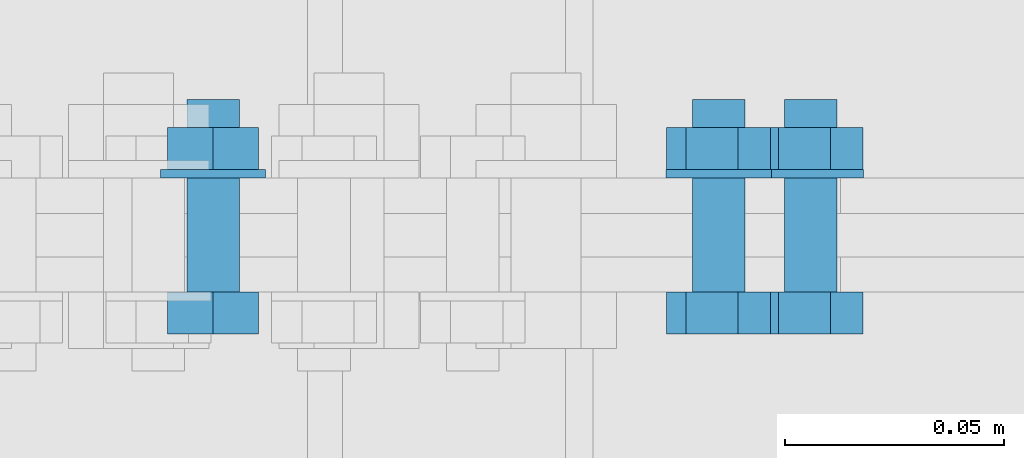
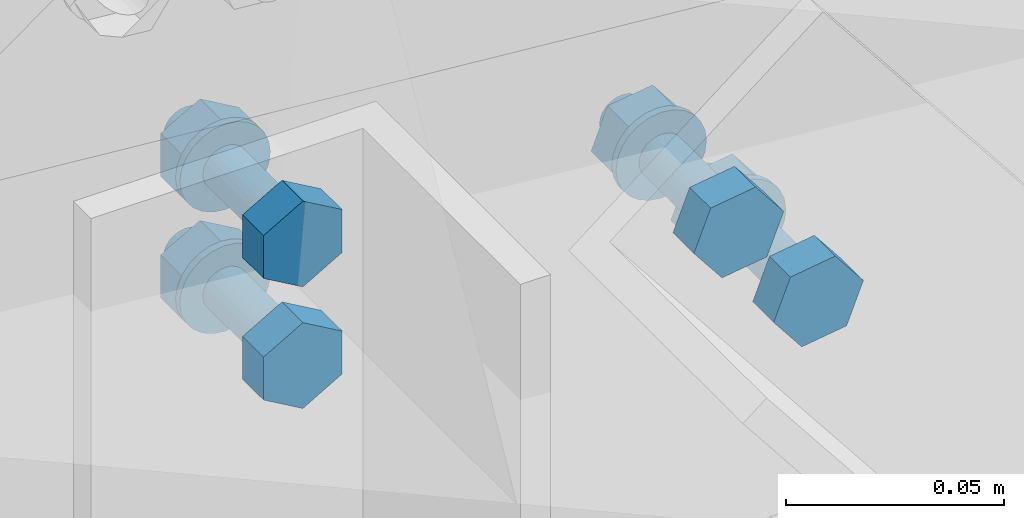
# One storey, part 106 of 251: 16 mechanical fasteners.
"""IFC4 building model written with IfcOpenShell, lengths in metres."""

import ifcopenshell
import ifcopenshell.guid

model = None  # the IFC model being written
_history = None  # IfcOwnerHistory: only IFC2X3 demands one
_inside = {}  # id of a spatial element -> (the spatial element, [elements in it])
_under = {}  # id of a project, library or spatial element -> (it, [spatial elements below it])
_declared = {}  # id of a project -> (the project, [libraries it declares])
_typed = {}  # id of a type object -> (the type object, [elements of that type])
_made_of = {}  # id of a material, layer set ... -> (it, [elements and type objects made of it])


def new_model(schema):
    """Start an empty IFC model of exactly this schema.

    Asked for "IFC4X3", IfcOpenShell would pick the latest addendum, in which some entities
    have other attributes; the version numbers below select the first issue.
    IFC2X3 requires an IfcOwnerHistory on every rooted entity: one is made here for all.
    """
    global model, _history
    if schema == "IFC4X3":
        model = ifcopenshell.file(schema_version=(4, 3, 0, 0))
    else:
        model = ifcopenshell.file(schema=schema)
    _inside.clear()
    _under.clear()
    _declared.clear()
    _typed.clear()
    _made_of.clear()
    _history = None
    if model.schema == "IFC2X3":
        org = make("IfcOrganization", Name="unknown")
        user = make(
            "IfcPersonAndOrganization",
            ThePerson=make("IfcPerson", FamilyName="unknown"),
            TheOrganization=org,
        )
        app = make(
            "IfcApplication",
            ApplicationDeveloper=org,
            Version="unknown",
            ApplicationFullName="unknown",
            ApplicationIdentifier="unknown",
        )
        _history = make(
            "IfcOwnerHistory",
            OwningUser=user,
            OwningApplication=app,
            ChangeAction="ADDED",
            CreationDate=0,
        )
    return model


def make(cls, **values):
    """One entity of the class cls with the attributes given. An attribute that is None is left unset."""
    return model.create_entity(
        cls, **{name: value for name, value in values.items() if value is not None}
    )


def rooted(cls, **values):
    """An entity with a GlobalId (a new one), such as an element, a storey or a relation."""
    return make(cls, GlobalId=ifcopenshell.guid.new(), OwnerHistory=_history, **values)


def si_unit(unit_type, name, prefix=None):
    """IfcSIUnit, for example si_unit("LENGTHUNIT", "METRE", prefix="MILLI")."""
    return make("IfcSIUnit", UnitType=unit_type, Prefix=prefix, Name=name)


def assignment(units):
    """IfcUnitAssignment: the units of a project."""
    return None if units is None else make("IfcUnitAssignment", Units=units)


def point(xyz):
    """IfcCartesianPoint."""
    return None if xyz is None else make("IfcCartesianPoint", Coordinates=xyz)


def direction(xyz):
    """IfcDirection."""
    return None if xyz is None else make("IfcDirection", DirectionRatios=xyz)


def frame(location, z_axis=None, x_axis=None):
    """IfcAxis2Placement3D, a coordinate frame: its origin and axes. An axis left out is left unset."""
    return make(
        "IfcAxis2Placement3D",
        Location=point(location),
        Axis=direction(z_axis),
        RefDirection=direction(x_axis),
    )


def origin_with_axes():
    """The frame at (0, 0, 0) with the z axis (0, 0, 1) and the x axis (1, 0, 0) written out."""
    return frame((0.0, 0.0, 0.0), z_axis=(0.0, 0.0, 1.0), x_axis=(1.0, 0.0, 0.0))


def place(relative_to, where):
    """IfcLocalPlacement: puts the frame where relative to a parent placement (None: the world)."""
    return make(
        "IfcLocalPlacement", PlacementRelTo=relative_to, RelativePlacement=where
    )


def context(
    kind, dimensions, precision=None, world=None, true_north=None, identifier=None
):
    """IfcGeometricRepresentationContext, for example the 3D "Model" context."""
    return make(
        "IfcGeometricRepresentationContext",
        ContextIdentifier=identifier,
        ContextType=kind,
        CoordinateSpaceDimension=dimensions,
        Precision=precision,
        WorldCoordinateSystem=world,
        TrueNorth=true_north,
    )


def project(units=None, contexts=None):
    """IfcProject with its units and contexts."""
    return rooted(
        "IfcProject",
        Name="project",
        RepresentationContexts=contexts,
        UnitsInContext=assignment(units),
    )


def spatial(cls, under=None, at=None, **own):
    """A site, building, storey or space (cls), placed at a placement, below another one or the project."""
    s = rooted(cls, ObjectPlacement=at, **own)
    if under is not None:
        _under.setdefault(under.id(), (under, []))[1].append(s)
    return s


def polyline(points):
    """IfcPolyline through the points."""
    return make("IfcPolyline", Points=[point(p) for p in points])


def outline(outer, holes=None, kind="AREA"):
    """IfcArbitraryClosedProfileDef: a profile drawn as a closed curve; with holes, ...WithVoids."""
    if holes is None:
        return make("IfcArbitraryClosedProfileDef", ProfileType=kind, OuterCurve=outer)
    return make(
        "IfcArbitraryProfileDefWithVoids",
        ProfileType=kind,
        OuterCurve=outer,
        InnerCurves=holes,
    )


def extrude(swept, where, along, depth):
    """IfcExtrudedAreaSolid: the profile swept, set in the frame where, extruded along a direction by depth."""
    return make(
        "IfcExtrudedAreaSolid",
        SweptArea=swept,
        Position=where,
        ExtrudedDirection=direction(along),
        Depth=depth,
    )


def shape(context_of_items, identifier, shape_type, items):
    """IfcShapeRepresentation: the items that make up one representation, for example the "Body"."""
    return make(
        "IfcShapeRepresentation",
        ContextOfItems=context_of_items,
        RepresentationIdentifier=identifier,
        RepresentationType=shape_type,
        Items=items,
    )


def made_of(thing, what):
    """Note that an element or type object is made of a material, layer set ...; save() writes the relation."""
    if what is not None:
        _made_of.setdefault(what.id(), (what, []))[1].append(thing)
    return thing


def type_object(cls, material=None, **own):
    """A type object (cls), such as IfcWallType, which elements share."""
    return made_of(rooted(cls, **own), material)


def element(
    cls,
    number,
    at=None,
    inside=None,
    cuts=None,
    type_object=None,
    material=None,
    context=None,
    identifier="Body",
    shape_type=None,
    held_by="IfcProductDefinitionShape",
    body=None,
    shapes=None,
    **own,
):
    """One element of the class cls, such as IfcWall. Its Tag is "e" and its number.

    at: its placement. inside: the storey or other place that contains it. cuts: it is an
    opening in that element (IfcRelVoidsElement). A single representation is given by context,
    identifier, shape_type and body (its items); several are given by shapes. held_by: the class
    of the entity that holds the representations. save() writes the other relations.
    """
    e = rooted(cls, Tag="e%d" % number, ObjectPlacement=at, **own)
    if body is not None:
        shapes = [shape(context, identifier, shape_type, body)]
    if shapes is not None:
        e.Representation = make(held_by, Representations=shapes)
    if inside is not None:
        _inside.setdefault(inside.id(), (inside, []))[1].append(e)
    if cuts is not None:
        rooted(
            "IfcRelVoidsElement", RelatingBuildingElement=cuts, RelatedOpeningElement=e
        )
    if type_object is not None:
        _typed.setdefault(type_object.id(), (type_object, []))[1].append(e)
    return made_of(e, material)


def aggregate(whole, parts):
    """IfcRelAggregates: a whole, such as a stair, and the parts it consists of."""
    return rooted("IfcRelAggregates", RelatingObject=whole, RelatedObjects=parts)


def save(model, path):
    """Write the relations noted so far, then the file.

    IfcRelAggregates (storeys below a building ...), IfcRelContainedInSpatialStructure (elements
    in a storey), IfcRelDefinesByType, IfcRelAssociatesMaterial and IfcRelDeclares: one each for
    every whole, place, type object, material and project.
    """
    for whole, parts in _under.values():
        aggregate(whole, parts)
    for where, things in _inside.values():
        rooted(
            "IfcRelContainedInSpatialStructure",
            RelatedElements=things,
            RelatingStructure=where,
        )
    for kind, things in _typed.values():
        rooted("IfcRelDefinesByType", RelatedObjects=things, RelatingType=kind)
    for what, things in _made_of.values():
        rooted("IfcRelAssociatesMaterial", RelatedObjects=things, RelatingMaterial=what)
    for by, libraries in _declared.values():
        rooted("IfcRelDeclares", RelatingContext=by, RelatedDefinitions=libraries)
    model.write(path)


model = new_model("IFC4")

# Units and contexts
model_context = context("Model", 3, precision=1e-05, world=origin_with_axes())
ifc_project = project(units=[si_unit("LENGTHUNIT", "METRE"), si_unit("AREAUNIT", "SQUARE_METRE"), si_unit("VOLUMEUNIT", "CUBIC_METRE"), si_unit("MASSUNIT", "GRAM", prefix="KILO"), si_unit("TIMEUNIT", "SECOND"), si_unit("PLANEANGLEUNIT", "RADIAN"), si_unit("SOLIDANGLEUNIT", "STERADIAN"), si_unit("THERMODYNAMICTEMPERATUREUNIT", "DEGREE_CELSIUS")], contexts=[model_context])

# Site, building, storey
placement_1 = place(None, origin_with_axes())
site = spatial("IfcSite", under=ifc_project, at=placement_1, Name="Italia", CompositionType="ELEMENT")
building = spatial("IfcBuilding", under=site, at=placement_1, Name="Deposito", CompositionType="ELEMENT")
storey = spatial("IfcBuildingStorey", under=building, at=placement_1, Name="Storey 0", CompositionType="ELEMENT", Elevation=0.0)

# Mechanical fasteners
mechanical_fastener_type_1 = type_object("IfcMechanicalFastenerType", Name="Reticolare 3", PredefinedType="BOLT")
placement_2 = place(placement_1, origin_with_axes())
mechanical_fastener_1_placement = place(placement_2, origin_with_axes())
element("IfcMechanicalFastener", 1, at=mechanical_fastener_1_placement, inside=storey, type_object=mechanical_fastener_type_1, Name="Reticolare 3", NominalDiameter=0.0120001, context=model_context, shape_type="SweptSolid", body=[
    extrude(outline(polyline([(0.0, 0.0), (0.0, -0.0120001), (-0.0103931, -0.0180001), (-0.0207863, -0.0120001), (-0.0207863, 0.0), (-0.0103931, 0.00600004), (0.0, 0.0)])), frame((17.0148, 4.987, 6.17871), z_axis=(0.0, -1.0, 0.0), x_axis=(1.0, 0.0, 0.0)), (0.0, 0.0, 1.0), 0.00960016),
])
mechanical_fastener_type_2 = type_object("IfcMechanicalFastenerType", Name="Reticolare 3", PredefinedType="BOLT")
mechanical_fastener_2_placement = place(placement_2, origin_with_axes())
element("IfcMechanicalFastener", 2, at=mechanical_fastener_2_placement, inside=storey, type_object=mechanical_fastener_type_2, Name="Reticolare 3", NominalDiameter=0.012, context=model_context, shape_type="SweptSolid", body=[
    extrude(outline(polyline([(0.0, 0.0), (-0.000204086, -0.00155306), (-0.000804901, -0.00299978), (-0.00175858, -0.00424242), (-0.00300026, -0.00519609), (-0.00444794, -0.00579548), (-0.00600052, -0.00600004), (-0.0075531, -0.00579548), (-0.00900078, -0.00519609), (-0.0102425, -0.00424242), (-0.0111961, -0.00299978), (-0.011797, -0.00155306), (-0.012001, 0.0), (-0.011797, 0.00155306), (-0.0111961, 0.00299978), (-0.0102425, 0.00424242), (-0.00900078, 0.00519609), (-0.0075531, 0.00579548), (-0.00600052, 0.00600004), (-0.00444794, 0.00579548), (-0.00300026, 0.00519609), (-0.00175858, 0.00424242), (-0.000804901, 0.00299978), (-0.000204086, 0.00155306), (0.0, 0.0)])), frame((17.0104, 5.031, 6.17271), z_axis=(0.0, -1.0, 0.0), x_axis=(1.0, 0.0, 0.0)), (0.0, 0.0, 1.0), 0.0440001),
])
mechanical_fastener_type_3 = type_object("IfcMechanicalFastenerType", Name="Reticolare 3", PredefinedType="BOLT")
mechanical_fastener_3_placement = place(placement_2, origin_with_axes())
element("IfcMechanicalFastener", 3, at=mechanical_fastener_3_placement, inside=storey, type_object=mechanical_fastener_type_3, Name="Reticolare 3", NominalDiameter=0.0120001, context=model_context, shape_type="SweptSolid", body=[
    extrude(outline(polyline([(0.0, 0.0), (0.0, -0.0120001), (-0.0103931, -0.0180001), (-0.0207863, -0.0120001), (-0.0207863, 0.0), (-0.0103931, 0.00600004), (0.0, 0.0)])), frame((17.0148, 5.0246, 6.17871), z_axis=(0.0, -1.0, 0.0), x_axis=(1.0, 0.0, 0.0)), (0.0, 0.0, 1.0), 0.00960016),
])
mechanical_fastener_type_4 = type_object("IfcMechanicalFastenerType", Name="Reticolare 3", PredefinedType="BOLT")
mechanical_fastener_4_placement = place(placement_2, origin_with_axes())
element("IfcMechanicalFastener", 4, at=mechanical_fastener_4_placement, inside=storey, type_object=mechanical_fastener_type_4, Name="Reticolare 3", NominalDiameter=0.024, context=model_context, shape_type="SweptSolid", body=[
    extrude(outline(polyline([(0.0, 0.0), (-0.000408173, -0.00310564), (-0.00160599, -0.00600004), (-0.00351334, -0.00848532), (-0.00599861, -0.0103922), (-0.00889397, -0.011591), (-0.0119991, -0.0120001), (-0.0151043, -0.011591), (-0.0179996, -0.0103922), (-0.0204849, -0.00848532), (-0.0223923, -0.00600004), (-0.0235901, -0.00310564), (-0.0239983, 0.0), (-0.0235901, 0.00310564), (-0.0223923, 0.00600004), (-0.0204849, 0.00848532), (-0.0179996, 0.0103922), (-0.0151043, 0.011591), (-0.0119991, 0.0120001), (-0.00889397, 0.011591), (-0.00599861, 0.0103922), (-0.00351334, 0.00848532), (-0.00160599, 0.00600004), (-0.000408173, 0.00310564), (0.0, 0.0)])), frame((17.0164, 5.015, 6.17271), z_axis=(0.0, -1.0, 0.0), x_axis=(1.0, 0.0, 0.0)), (0.0, 0.0, 1.0), 0.00199986),
])
mechanical_fastener_type_5 = type_object("IfcMechanicalFastenerType", Name="Reticolare 3", PredefinedType="BOLT")
mechanical_fastener_5_placement = place(placement_2, origin_with_axes())
element("IfcMechanicalFastener", 5, at=mechanical_fastener_5_placement, inside=storey, type_object=mechanical_fastener_type_5, Name="Reticolare 3", NominalDiameter=0.0120001, context=model_context, shape_type="SweptSolid", body=[
    extrude(outline(polyline([(0.0, 0.0), (0.0, -0.0120001), (-0.0103931, -0.0180001), (-0.0207863, -0.0120001), (-0.0207863, 0.0), (-0.0103931, 0.00600004), (0.0, 0.0)])), frame((17.0148, 4.987, 6.14471), z_axis=(0.0, -1.0, 0.0), x_axis=(1.0, 0.0, 0.0)), (0.0, 0.0, 1.0), 0.00960016),
])
mechanical_fastener_type_6 = type_object("IfcMechanicalFastenerType", Name="Reticolare 3", PredefinedType="BOLT")
mechanical_fastener_6_placement = place(placement_2, origin_with_axes())
element("IfcMechanicalFastener", 6, at=mechanical_fastener_6_placement, inside=storey, type_object=mechanical_fastener_type_6, Name="Reticolare 3", NominalDiameter=0.012, context=model_context, shape_type="SweptSolid", body=[
    extrude(outline(polyline([(0.0, 0.0), (-0.000204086, -0.00155306), (-0.000804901, -0.00299978), (-0.00175858, -0.00424242), (-0.00300026, -0.00519609), (-0.00444794, -0.00579548), (-0.00600052, -0.00600004), (-0.0075531, -0.00579548), (-0.00900078, -0.00519609), (-0.0102425, -0.00424242), (-0.0111961, -0.00299978), (-0.011797, -0.00155306), (-0.012001, 0.0), (-0.011797, 0.00155306), (-0.0111961, 0.00299978), (-0.0102425, 0.00424242), (-0.00900078, 0.00519609), (-0.0075531, 0.00579548), (-0.00600052, 0.00600004), (-0.00444794, 0.00579548), (-0.00300026, 0.00519609), (-0.00175858, 0.00424242), (-0.000804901, 0.00299978), (-0.000204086, 0.00155306), (0.0, 0.0)])), frame((17.0104, 5.031, 6.13871), z_axis=(0.0, -1.0, 0.0), x_axis=(1.0, 0.0, 0.0)), (0.0, 0.0, 1.0), 0.0440001),
])
mechanical_fastener_type_7 = type_object("IfcMechanicalFastenerType", Name="Reticolare 3", PredefinedType="BOLT")
mechanical_fastener_7_placement = place(placement_2, origin_with_axes())
element("IfcMechanicalFastener", 7, at=mechanical_fastener_7_placement, inside=storey, type_object=mechanical_fastener_type_7, Name="Reticolare 3", NominalDiameter=0.0120001, context=model_context, shape_type="SweptSolid", body=[
    extrude(outline(polyline([(0.0, 0.0), (0.0, -0.0120001), (-0.0103931, -0.0180001), (-0.0207863, -0.0120001), (-0.0207863, 0.0), (-0.0103931, 0.00600004), (0.0, 0.0)])), frame((17.0148, 5.0246, 6.14471), z_axis=(0.0, -1.0, 0.0), x_axis=(1.0, 0.0, 0.0)), (0.0, 0.0, 1.0), 0.00960016),
])
mechanical_fastener_type_8 = type_object("IfcMechanicalFastenerType", Name="Reticolare 3", PredefinedType="BOLT")
mechanical_fastener_8_placement = place(placement_2, origin_with_axes())
element("IfcMechanicalFastener", 8, at=mechanical_fastener_8_placement, inside=storey, type_object=mechanical_fastener_type_8, Name="Reticolare 3", NominalDiameter=0.024, context=model_context, shape_type="SweptSolid", body=[
    extrude(outline(polyline([(0.0, 0.0), (-0.000408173, -0.00310564), (-0.00160599, -0.00600004), (-0.00351334, -0.00848532), (-0.00599861, -0.0103922), (-0.00889397, -0.011591), (-0.0119991, -0.0120001), (-0.0151043, -0.011591), (-0.0179996, -0.0103922), (-0.0204849, -0.00848532), (-0.0223923, -0.00600004), (-0.0235901, -0.00310564), (-0.0239983, 0.0), (-0.0235901, 0.00310564), (-0.0223923, 0.00600004), (-0.0204849, 0.00848532), (-0.0179996, 0.0103922), (-0.0151043, 0.011591), (-0.0119991, 0.0120001), (-0.00889397, 0.011591), (-0.00599861, 0.0103922), (-0.00351334, 0.00848532), (-0.00160599, 0.00600004), (-0.000408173, 0.00310564), (0.0, 0.0)])), frame((17.0164, 5.015, 6.13871), z_axis=(0.0, -1.0, 0.0), x_axis=(1.0, 0.0, 0.0)), (0.0, 0.0, 1.0), 0.00199986),
])
mechanical_fastener_type_9 = type_object("IfcMechanicalFastenerType", Name="Reticolare 3", PredefinedType="BOLT")
mechanical_fastener_9_placement = place(placement_2, origin_with_axes())
element("IfcMechanicalFastener", 9, at=mechanical_fastener_9_placement, inside=storey, type_object=mechanical_fastener_type_9, Name="Reticolare 3", NominalDiameter=0.0119989, context=model_context, shape_type="SweptSolid", body=[
    extrude(outline(polyline([(0.0, 0.0), (-0.00743866, 0.00941753), (-0.00300026, 0.0205669), (0.00887299, 0.0222993), (0.0163097, 0.0128818), (0.0118732, 0.00173187), (0.0, 0.0)])), frame((17.1153, 4.987, 6.12441), z_axis=(0.0, -1.0, 0.0), x_axis=(1.0, 0.0, 0.0)), (0.0, 0.0, 1.0), 0.00960016),
])
mechanical_fastener_type_10 = type_object("IfcMechanicalFastenerType", Name="Reticolare 3", PredefinedType="BOLT")
mechanical_fastener_10_placement = place(placement_2, origin_with_axes())
element("IfcMechanicalFastener", 10, at=mechanical_fastener_10_placement, inside=storey, type_object=mechanical_fastener_type_10, Name="Reticolare 3", NominalDiameter=0.012, context=model_context, shape_type="SweptSolid", body=[
    extrude(outline(polyline([(0.0, 0.0), (-0.000204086, -0.00155306), (-0.000804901, -0.00299978), (-0.00175858, -0.00424242), (-0.00300026, -0.00519609), (-0.00444794, -0.00579548), (-0.00600052, -0.00600004), (-0.0075531, -0.00579548), (-0.00900078, -0.00519609), (-0.0102425, -0.00424242), (-0.0111961, -0.00299978), (-0.011797, -0.00155306), (-0.012001, 0.0), (-0.011797, 0.00155306), (-0.0111961, 0.00299978), (-0.0102425, 0.00424242), (-0.00900078, 0.00519609), (-0.0075531, 0.00579548), (-0.00600052, 0.00600004), (-0.00444794, 0.00579548), (-0.00300026, 0.00519609), (-0.00175858, 0.00424242), (-0.000804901, 0.00299978), (-0.000204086, 0.00155306), (0.0, 0.0)])), frame((17.1258, 5.031, 6.13556), z_axis=(0.0, -1.0, 0.0), x_axis=(1.0, 0.0, 0.0)), (0.0, 0.0, 1.0), 0.0440001),
])
mechanical_fastener_type_11 = type_object("IfcMechanicalFastenerType", Name="Reticolare 3", PredefinedType="BOLT")
mechanical_fastener_11_placement = place(placement_2, origin_with_axes())
element("IfcMechanicalFastener", 11, at=mechanical_fastener_11_placement, inside=storey, type_object=mechanical_fastener_type_11, Name="Reticolare 3", NominalDiameter=0.0119989, context=model_context, shape_type="SweptSolid", body=[
    extrude(outline(polyline([(0.0, 0.0), (-0.00743866, 0.00941753), (-0.00300026, 0.0205669), (0.00887299, 0.0222993), (0.0163097, 0.0128818), (0.0118732, 0.00173187), (0.0, 0.0)])), frame((17.1153, 5.0246, 6.12441), z_axis=(0.0, -1.0, 0.0), x_axis=(1.0, 0.0, 0.0)), (0.0, 0.0, 1.0), 0.00960016),
])
mechanical_fastener_type_12 = type_object("IfcMechanicalFastenerType", Name="Reticolare 3", PredefinedType="BOLT")
mechanical_fastener_12_placement = place(placement_2, origin_with_axes())
element("IfcMechanicalFastener", 12, at=mechanical_fastener_12_placement, inside=storey, type_object=mechanical_fastener_type_12, Name="Reticolare 3", NominalDiameter=0.024, context=model_context, shape_type="SweptSolid", body=[
    extrude(outline(polyline([(0.0, 0.0), (-0.000408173, -0.00310564), (-0.00160599, -0.00600004), (-0.00351334, -0.00848532), (-0.00599861, -0.0103922), (-0.00889397, -0.011591), (-0.0119991, -0.0120001), (-0.0151043, -0.011591), (-0.0179996, -0.0103922), (-0.0204849, -0.00848532), (-0.0223923, -0.00600004), (-0.0235901, -0.00310564), (-0.0239983, 0.0), (-0.0235901, 0.00310564), (-0.0223923, 0.00600004), (-0.0204849, 0.00848532), (-0.0179996, 0.0103922), (-0.0151043, 0.011591), (-0.0119991, 0.0120001), (-0.00889397, 0.011591), (-0.00599861, 0.0103922), (-0.00351334, 0.00848532), (-0.00160599, 0.00600004), (-0.000408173, 0.00310564), (0.0, 0.0)])), frame((17.1318, 5.015, 6.13556), z_axis=(0.0, -1.0, 0.0), x_axis=(1.0, 0.0, 0.0)), (0.0, 0.0, 1.0), 0.00199986),
])
mechanical_fastener_type_13 = type_object("IfcMechanicalFastenerType", Name="Reticolare 3", PredefinedType="BOLT")
mechanical_fastener_13_placement = place(placement_2, origin_with_axes())
element("IfcMechanicalFastener", 13, at=mechanical_fastener_13_placement, inside=storey, type_object=mechanical_fastener_type_13, Name="Reticolare 3", NominalDiameter=0.0119997, context=model_context, shape_type="SweptSolid", body=[
    extrude(outline(polyline([(0.0, 0.0), (-0.00743675, 0.00941753), (-0.00300026, 0.0205669), (0.00887489, 0.0222988), (0.0163116, 0.0128813), (0.0118752, 0.00173187), (0.0, 0.0)])), frame((17.1364, 4.987, 6.09773), z_axis=(0.0, -1.0, 0.0), x_axis=(1.0, 0.0, 0.0)), (0.0, 0.0, 1.0), 0.00960016),
])
mechanical_fastener_type_14 = type_object("IfcMechanicalFastenerType", Name="Reticolare 3", PredefinedType="BOLT")
mechanical_fastener_14_placement = place(placement_2, origin_with_axes())
element("IfcMechanicalFastener", 14, at=mechanical_fastener_14_placement, inside=storey, type_object=mechanical_fastener_type_14, Name="Reticolare 3", NominalDiameter=0.012, context=model_context, shape_type="SweptSolid", body=[
    extrude(outline(polyline([(0.0, 0.0), (-0.000204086, -0.00155306), (-0.000804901, -0.00299978), (-0.00175858, -0.00424242), (-0.00300026, -0.00519609), (-0.00444794, -0.00579548), (-0.00600052, -0.00600004), (-0.0075531, -0.00579548), (-0.00900078, -0.00519609), (-0.0102425, -0.00424242), (-0.0111961, -0.00299978), (-0.011797, -0.00155306), (-0.012001, 0.0), (-0.011797, 0.00155306), (-0.0111961, 0.00299978), (-0.0102425, 0.00424242), (-0.00900078, 0.00519609), (-0.0075531, 0.00579548), (-0.00600052, 0.00600004), (-0.00444794, 0.00579548), (-0.00300026, 0.00519609), (-0.00175858, 0.00424242), (-0.000804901, 0.00299978), (-0.000204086, 0.00155306), (0.0, 0.0)])), frame((17.1468, 5.031, 6.10888), z_axis=(0.0, -1.0, 0.0), x_axis=(1.0, 0.0, 0.0)), (0.0, 0.0, 1.0), 0.0440001),
])
mechanical_fastener_type_15 = type_object("IfcMechanicalFastenerType", Name="Reticolare 3", PredefinedType="BOLT")
mechanical_fastener_15_placement = place(placement_2, origin_with_axes())
element("IfcMechanicalFastener", 15, at=mechanical_fastener_15_placement, inside=storey, type_object=mechanical_fastener_type_15, Name="Reticolare 3", NominalDiameter=0.0119997, context=model_context, shape_type="SweptSolid", body=[
    extrude(outline(polyline([(0.0, 0.0), (-0.00743675, 0.00941753), (-0.00300026, 0.0205669), (0.00887489, 0.0222988), (0.0163116, 0.0128813), (0.0118752, 0.00173187), (0.0, 0.0)])), frame((17.1364, 5.0246, 6.09773), z_axis=(0.0, -1.0, 0.0), x_axis=(1.0, 0.0, 0.0)), (0.0, 0.0, 1.0), 0.00960016),
])
mechanical_fastener_type_16 = type_object("IfcMechanicalFastenerType", Name="Reticolare 3", PredefinedType="BOLT")
mechanical_fastener_16_placement = place(placement_2, origin_with_axes())
element("IfcMechanicalFastener", 16, at=mechanical_fastener_16_placement, inside=storey, type_object=mechanical_fastener_type_16, Name="Reticolare 3", NominalDiameter=0.024, context=model_context, shape_type="SweptSolid", body=[
    extrude(outline(polyline([(0.0, 0.0), (-0.000408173, -0.00310564), (-0.00160599, -0.00600004), (-0.00351334, -0.00848532), (-0.00599861, -0.0103922), (-0.00889397, -0.011591), (-0.0119991, -0.0120001), (-0.0151043, -0.011591), (-0.0179996, -0.0103922), (-0.0204849, -0.00848532), (-0.0223923, -0.00600004), (-0.0235901, -0.00310564), (-0.0239983, 0.0), (-0.0235901, 0.00310564), (-0.0223923, 0.00600004), (-0.0204849, 0.00848532), (-0.0179996, 0.0103922), (-0.0151043, 0.011591), (-0.0119991, 0.0120001), (-0.00889397, 0.011591), (-0.00599861, 0.0103922), (-0.00351334, 0.00848532), (-0.00160599, 0.00600004), (-0.000408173, 0.00310564), (0.0, 0.0)])), frame((17.1528, 5.015, 6.10888), z_axis=(0.0, -1.0, 0.0), x_axis=(1.0, 0.0, 0.0)), (0.0, 0.0, 1.0), 0.00199986),
])

save(model, "model.ifc")
